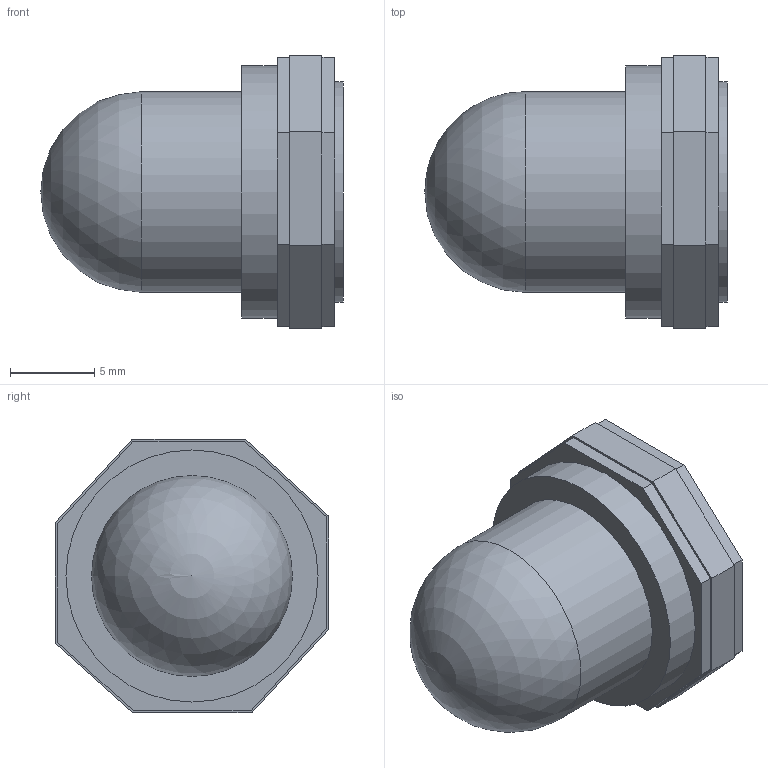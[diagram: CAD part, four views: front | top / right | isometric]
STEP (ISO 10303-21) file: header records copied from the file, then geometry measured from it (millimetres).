
FILE_DESCRIPTION(/* description */ (''),/* implementation_level */ '2;1');
FILE_NAME(/* name */ 'C:\Users\Hani\Desktop\work\CBW58-BL-40A-5X\CBW-BC-11.stp',/* time_stamp */ '2021-01-25T19:01:13-08:00',/* author */ ('Hani'),/* organization */ (''),/* preprocessor_version */ 'ST-DEVELOPER v17',/* originating_system */ 'Autodesk Inventor 2019',/* authorisation */ '');
FILE_SCHEMA (('AUTOMOTIVE_DESIGN { 1 0 10303 214 3 1 1 }'));
Length unit declared in the file: inch
Products named in the file (1): CBW-BC-11
Bounding box: 17.98 x 16.26 x 16.26 mm (x, y, z)
Volume: 883.8 mm3; surface area: 1683.8 mm2
Topology: 1 solids, 1 shells, 44 faces, 109 edges, 75 vertices
Faces by surface type: plane 34, cylinder 8, bspline 1, sphere 1
Full cylindrical faces by diameter (mm): 10.16 x1, 11 x1, 11.85 x1, 11.938 x1, 13.12 x1, 13.208 x1, 13.859 x1, 14.986 x1
Entity records: 1387 total; most frequent: CARTESIAN_POINT 271, DIRECTION 222, ORIENTED_EDGE 214, EDGE_CURVE 107, LINE 80, VECTOR 80, VERTEX_POINT 75, AXIS2_PLACEMENT_3D 71
